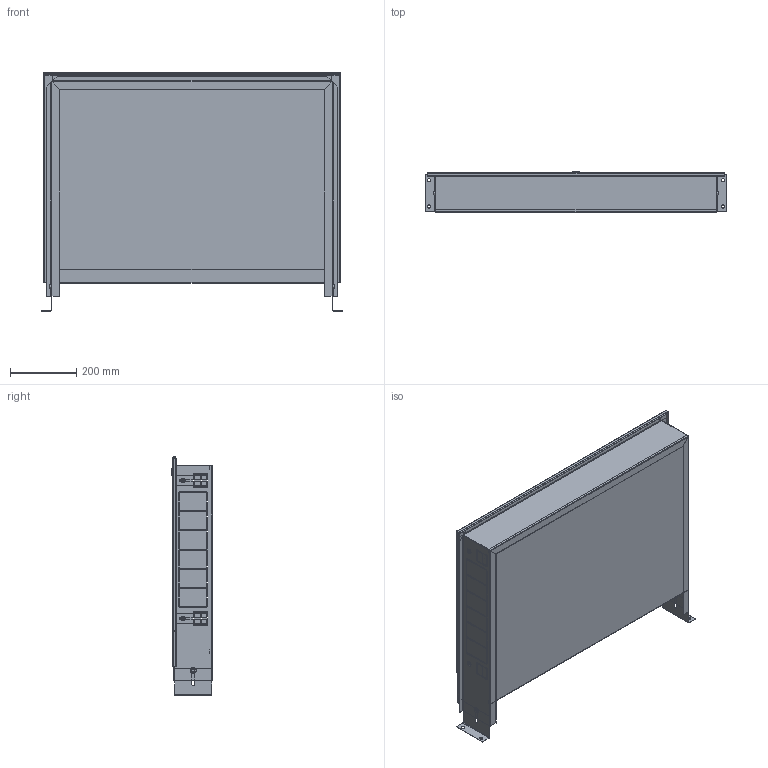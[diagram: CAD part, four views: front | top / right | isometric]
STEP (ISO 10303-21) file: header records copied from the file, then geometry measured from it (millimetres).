
FILE_DESCRIPTION(('TFLEX Exchange Step'),'2;1');
FILE_NAME('Manifold cabinet VTc.540.0.04 Valtec.stp', '2023-10-11T14:40:56+03:00',('denis'),('Unknown organisation'),'TFLEX Exchange 2023.0','T-FLEX CAD','Unknown authorisation');
FILE_SCHEMA( ('AUTOMOTIVE_DESIGN { 1 0 10303 214 1 1 1 1 }') );
Length unit declared in the file: millimetre
Products named in the file (1): Nodes
Bounding box: 910 x 124.1 x 719 mm (x, y, z)
Volume: 1298569.1 mm3; surface area: 3140932.7 mm2
Topology: 14 solids, 15 shells, 784 faces, 2075 edges, 1345 vertices
Faces by surface type: plane 592, cylinder 127, cone 43, bspline 12, torus 6, sphere 4
Full cylindrical faces by diameter (mm): 6 x12, 6.4 x6, 7 x2, 10 x5, 12 x1, 14 x4, 16 x1, 18 x6, 20 x2
Entity records: 27234 total; most frequent: CARTESIAN_POINT 7580, ORIENTED_EDGE 4142, DIRECTION 3793, EDGE_CURVE 2071, VECTOR 1535, LINE 1535, VERTEX_POINT 1345, AXIS2_PLACEMENT_3D 1129
